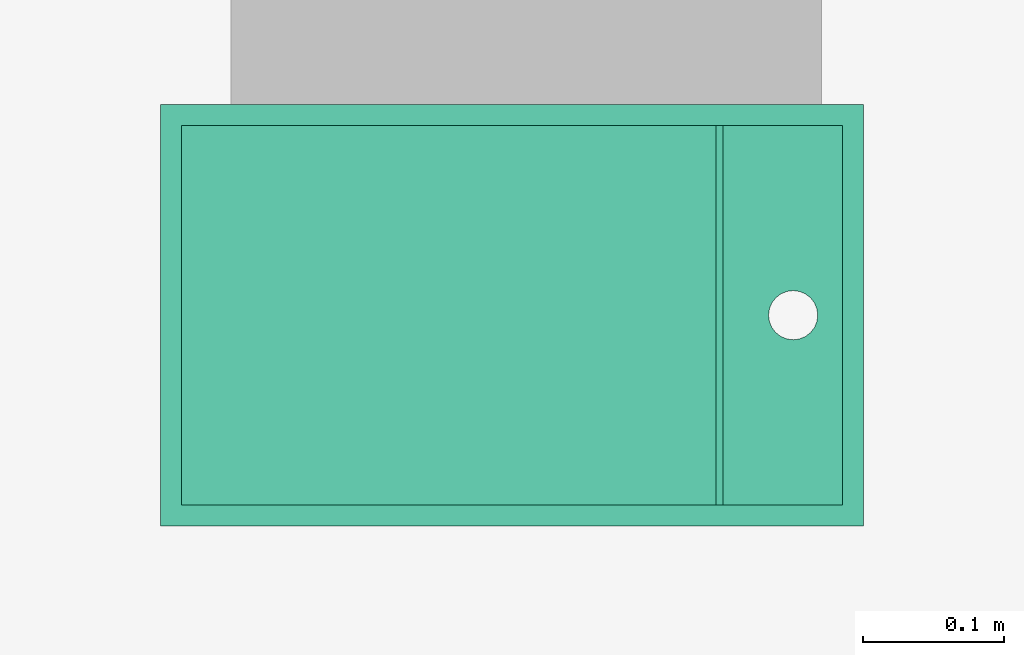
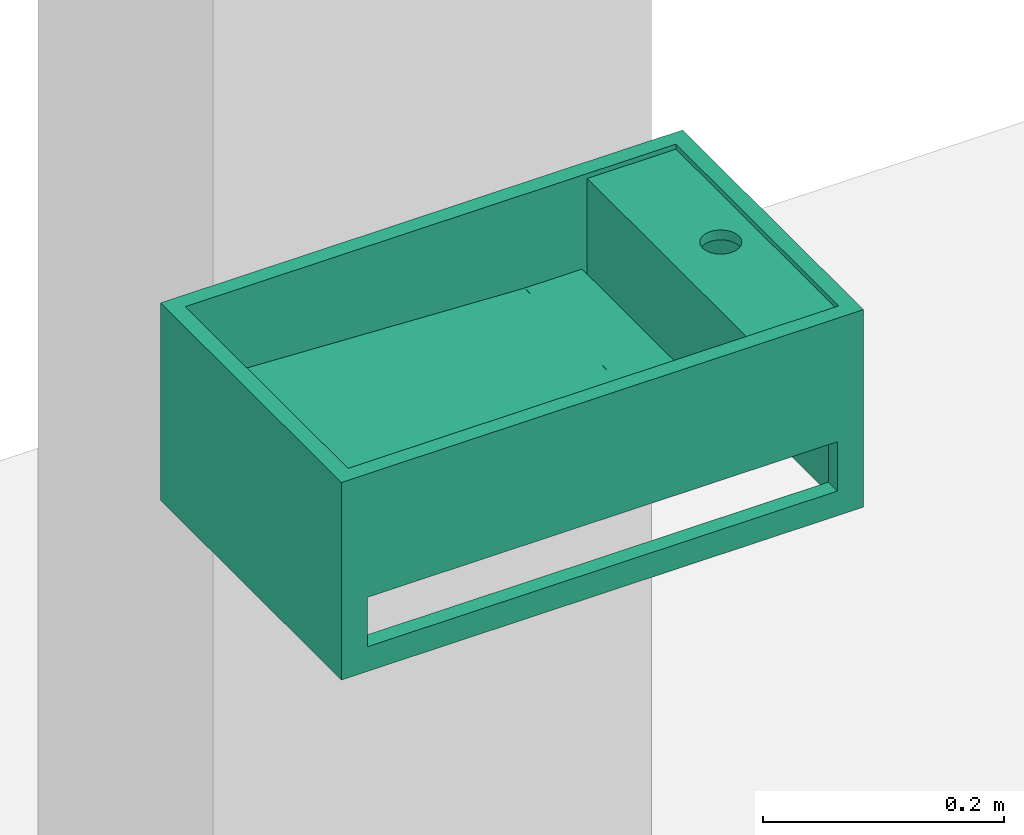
# One storey, part 2 of 2: 1 flow terminal.
"""IFC2X3 building model written with IfcOpenShell, lengths in millimetres."""

from ifc_helpers import new_model, entity, si_unit, converted_unit, derived_unit, direction, frame, origin, place, context, subcontext, project, spatial, faceted_brep, source, transform, mapped, material, element, save


model = new_model("IFC2X3")

# Units and contexts
model_context = context("Model", 3, precision=0.01, world=origin(), true_north=direction((6.12303176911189e-17, 1.0)))
context_of_model = context(None, 3, precision=0.01, world=origin(), true_north=direction((6.12303176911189e-17, 1.0)))
body_context = subcontext(model_context, "Body", "Model", "MODEL_VIEW")
ifc_project = project(units=[si_unit("LENGTHUNIT", "METRE", prefix="MILLI"), si_unit("AREAUNIT", "SQUARE_METRE"), si_unit("VOLUMEUNIT", "CUBIC_METRE"), converted_unit("PLANEANGLEUNIT", "DEGREE", entity("IfcRatioMeasure", 0.0174532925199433), si_unit("PLANEANGLEUNIT", "RADIAN"), dimensions=[0, 0, 0, 0, 0, 0, 0]), si_unit("MASSUNIT", "GRAM", prefix="KILO"), derived_unit("MASSDENSITYUNIT", [(si_unit("MASSUNIT", "GRAM", prefix="KILO"), 1), (si_unit("LENGTHUNIT", "METRE"), -3)]), si_unit("TIMEUNIT", "SECOND"), si_unit("FREQUENCYUNIT", "HERTZ"), si_unit("THERMODYNAMICTEMPERATUREUNIT", "DEGREE_CELSIUS"), derived_unit("THERMALTRANSMITTANCEUNIT", [(si_unit("MASSUNIT", "GRAM", prefix="KILO"), 1), (si_unit("THERMODYNAMICTEMPERATUREUNIT", "KELVIN"), -1), (si_unit("TIMEUNIT", "SECOND"), -3)]), derived_unit("VOLUMETRICFLOWRATEUNIT", [(si_unit("LENGTHUNIT", "METRE"), 3), (si_unit("TIMEUNIT", "SECOND"), -1)]), si_unit("ELECTRICCURRENTUNIT", "AMPERE"), si_unit("ELECTRICVOLTAGEUNIT", "VOLT"), si_unit("POWERUNIT", "WATT"), si_unit("FORCEUNIT", "NEWTON", prefix="KILO"), si_unit("ILLUMINANCEUNIT", "LUX"), si_unit("LUMINOUSFLUXUNIT", "LUMEN"), si_unit("LUMINOUSINTENSITYUNIT", "CANDELA"), derived_unit("USERDEFINED", [(si_unit("MASSUNIT", "GRAM", prefix="KILO"), -1), (si_unit("LENGTHUNIT", "METRE"), -2), (si_unit("TIMEUNIT", "SECOND"), 3), (si_unit("LUMINOUSFLUXUNIT", "LUMEN"), 1)]), derived_unit("LINEARVELOCITYUNIT", [(si_unit("LENGTHUNIT", "METRE"), 1), (si_unit("TIMEUNIT", "SECOND"), -1)]), si_unit("PRESSUREUNIT", "PASCAL"), derived_unit("USERDEFINED", [(si_unit("LENGTHUNIT", "METRE"), -2), (si_unit("MASSUNIT", "GRAM", prefix="KILO"), 1), (si_unit("TIMEUNIT", "SECOND"), -2)])], contexts=[model_context, context_of_model])

# Site, building, storey
site_placement = place(None, origin())
site = spatial("IfcSite", under=ifc_project, at=site_placement, Name="Default", CompositionType="ELEMENT")
building_placement = place(site_placement, origin())
building = spatial("IfcBuilding", under=site, at=building_placement, Name="n/a", CompositionType="ELEMENT")
storey_placement = place(building_placement, origin())
storey = spatial("IfcBuildingStorey", under=building, at=storey_placement, Name="Level 0", CompositionType="ELEMENT", Elevation=0.0)

# Flow terminal
ifc_material = material(Name="DBLTD_Neilur_SolidSurface_White")
shared_shape = source(origin(), body_context, "Body", "Brep", [
    faceted_brep([(104.999799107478, 285.0, 105.039388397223), (104.999799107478, 15.0, 105.039388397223), (159.999809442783, 15.0, 105.039388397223), (159.999809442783, 285.0, 105.039388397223), (104.999799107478, 285.0, 96.4429140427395), (159.999809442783, 285.0, 96.4429140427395), (159.999809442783, 15.0, 96.4429140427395), (104.999799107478, 15.0, 96.4429140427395)], [[[0, 1, 2, 3]], [[4, 5, 6, 7]], [[1, 0, 4, 7]], [[2, 1, 7, 6]], [[3, 2, 6, 5]], [[0, 3, 5, 4]]]),
    faceted_brep([(159.999809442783, 285.0, 105.015825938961), (485.0, 285.0, 120.015900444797), (485.0, 285.0, 200.015578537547), (14.9995852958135, 285.0, 200.015578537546), (14.9995852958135, 285.0, 195.016002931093), (99.9997991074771, 285.0, 195.016002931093), (99.9997991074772, 285.0, 95.0158349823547), (159.999809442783, 285.0, 95.0158349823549), (24.9999457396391, 285.0, 75.0153363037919), (84.9997803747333, 285.0, 75.0153363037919), (84.9997803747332, 285.0, 185.016916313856), (14.9995852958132, 285.0, 185.016916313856), (14.9995852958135, 285.0, 0.0155785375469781), (485.0, 285.0, 0.0155785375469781), (485.0, 285.0, 105.0), (175.34586717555, 285.0, 90.708208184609), (175.34586717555, 285.0, 75.0153363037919), (474.999945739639, 285.0, 75.0153363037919), (474.999945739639, 285.0, 25.0153169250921), (24.9999457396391, 285.0, 25.0153169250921), (43.0717967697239, 14.9973722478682, 154.015578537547), (42.2725933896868, 14.9973722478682, 152.086130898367), (14.9995852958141, 14.9973722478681, 185.016916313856), (44.343145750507, 14.9973722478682, 155.672432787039), (42.0, 14.9973722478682, 150.015578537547), (42.2725933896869, 14.9973722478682, 147.945026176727), (43.0717967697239, 14.9973722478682, 146.015578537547), (14.9995852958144, 14.9973722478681, 0.0), (44.343145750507, 14.9973722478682, 144.358724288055), (46.0, 14.9973722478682, 143.087375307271), (84.9997803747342, 14.9973722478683, 75.0147549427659), (47.9294476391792, 14.9973722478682, 142.288171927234), (50.0, 14.9973722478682, 142.015578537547), (52.0705523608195, 14.9973722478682, 142.288171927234), (54.0, 14.9973722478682, 143.087375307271), (55.6568542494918, 14.9973722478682, 144.358724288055), (56.9282032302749, 14.9973722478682, 146.015578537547), (57.7274066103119, 14.9973722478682, 147.945026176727), (84.999780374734, 14.9973722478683, 185.016916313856), (58.0, 14.9973722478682, 150.015578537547), (57.7274066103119, 14.9973722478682, 152.086130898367), (56.9282032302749, 14.9973722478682, 154.015578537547), (55.6568542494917, 14.9973722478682, 155.672432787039), (54.0, 14.9973722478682, 156.943781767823), (52.0705523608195, 14.9973722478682, 157.74298514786), (50.0, 14.9973722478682, 158.015578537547), (47.9294476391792, 14.9973722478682, 157.74298514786), (46.0, 14.9973722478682, 156.943781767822), (175.345867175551, 14.9973722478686, 75.0147549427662), (485.0, 14.9973722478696, 0.0155785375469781), (444.34314575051, 14.9973722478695, 44.3587242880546), (443.071796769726, 14.9973722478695, 46.0155785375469), (442.272593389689, 14.9973722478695, 47.9450261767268), (442.0, 14.9973722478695, 50.015578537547), (442.272593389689, 14.9973722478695, 52.0861308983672), (175.345867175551, 14.9973722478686, 90.708208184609), (443.071796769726, 14.9973722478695, 54.015578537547), (444.34314575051, 14.9973722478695, 55.6724327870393), (485.0, 14.9973722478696, 105.0), (446.0, 14.9973722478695, 56.9437817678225), (447.929447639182, 14.9973722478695, 57.7429851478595), (450.0, 14.9973722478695, 58.0155785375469), (452.070552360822, 14.9973722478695, 57.7429851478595), (454.0, 14.9973722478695, 56.9437817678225), (458.0, 14.9973722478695, 50.015578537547), (457.727406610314, 14.9973722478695, 52.0861308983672), (455.656854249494, 14.9973722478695, 55.6724327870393), (456.928203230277, 14.9973722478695, 54.015578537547), (446.0, 14.9973722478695, 43.0873753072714), (447.929447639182, 14.9973722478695, 42.2881719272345), (450.0, 14.9973722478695, 42.015578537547), (452.070552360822, 14.9973722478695, 42.2881719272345), (454.0, 14.9973722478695, 43.0873753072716), (455.656854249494, 14.9973722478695, 44.3587242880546), (456.928203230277, 14.9973722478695, 46.0155785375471), (457.727406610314, 14.9973722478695, 47.9450261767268), (99.999799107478, 14.9973722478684, 195.016002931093), (14.9995852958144, 14.9973722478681, 195.016002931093), (14.9995852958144, 14.9973722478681, 200.015578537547), (485.0, 14.9973722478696, 200.015578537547), (485.0, 14.9973722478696, 120.015900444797), (159.999809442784, 14.9973722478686, 105.015825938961), (159.999809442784, 14.9973722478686, 95.0158349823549), (99.9997991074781, 14.9973722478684, 95.0158349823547), (500.0, 300.0, 200.015578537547), (500.0, 0.0, 200.015578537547), (0.0, 300.0, 200.015578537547), (0.0, 0.0, 200.015578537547), (0.0, 300.0, 0.0155785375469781), (0.0, 0.0, 0.0155785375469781), (500.0, 300.0, 0.0155785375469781), (500.0, 0.0, 0.0155785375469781), (474.999945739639, 300.0, 75.0153363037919), (474.999945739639, 300.0, 25.0153169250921), (24.9999457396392, 300.0, 75.0153363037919), (24.9999457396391, 300.0, 25.0153169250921), (43.0717967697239, 0.0, 154.015578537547), (44.343145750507, 0.0, 155.672432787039), (42.2725933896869, 0.0, 152.086130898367), (46.0, 0.0, 156.943781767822), (47.9294476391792, 0.0, 157.74298514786), (50.0, 0.0, 158.015578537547), (52.0705523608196, 0.0, 157.74298514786), (42.0, 0.0, 150.015578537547), (42.2725933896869, 0.0, 147.945026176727), (43.0717967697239, 0.0, 146.015578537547), (54.0, 0.0, 156.943781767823), (44.3431457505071, 0.0, 144.358724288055), (46.0, 0.0, 143.087375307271), (47.9294476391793, 0.0, 142.288171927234), (50.0, 0.0, 142.015578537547), (52.0705523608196, 0.0, 142.288171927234), (54.0, 0.0, 143.087375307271), (55.6568542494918, 0.0, 144.358724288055), (442.272593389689, 0.0, 47.9450261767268), (443.071796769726, 0.0, 46.0155785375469), (444.34314575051, 0.0, 44.3587242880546), (446.0, 0.0, 43.0873753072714), (447.929447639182, 0.0, 42.2881719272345), (456.928203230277, 0.0, 54.0155785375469), (457.727406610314, 0.0, 52.0861308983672), (458.0, 0.0, 50.015578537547), (457.727406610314, 0.0, 47.9450261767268), (456.928203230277, 0.0, 46.0155785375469), (455.656854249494, 0.0, 44.3587242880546), (454.0, 0.0, 43.0873753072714), (452.070552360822, 0.0, 42.2881719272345), (450.0, 0.0, 42.015578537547), (56.9282032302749, 0.0, 146.015578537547), (442.0, 0.0, 50.015578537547), (57.727406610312, 0.0, 147.945026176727), (442.272593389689, 0.0, 52.0861308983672), (58.0, 0.0, 150.015578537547), (443.071796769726, 0.0, 54.015578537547), (57.727406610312, 0.0, 152.086130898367), (444.34314575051, 0.0, 55.6724327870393), (446.0, 0.0, 56.9437817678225), (447.929447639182, 0.0, 57.7429851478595), (450.0, 0.0, 58.0155785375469), (452.070552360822, 0.0, 57.7429851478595), (454.0, 0.0, 56.9437817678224), (455.656854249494, 0.0, 55.6724327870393), (56.9282032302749, 0.0, 154.015578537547), (55.6568542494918, 0.0, 155.672432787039), (34.8445554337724, 141.250000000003, 195.016002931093), (34.8445554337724, 141.250000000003, 185.016916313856), (33.0962980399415, 145.470666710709, 185.016916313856), (33.0962980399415, 145.470666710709, 195.016002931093), (32.5000000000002, 150.0, 185.016916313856), (32.5000000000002, 150.0, 195.016002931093), (45.4706667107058, 133.096298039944, 195.016002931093), (45.4706667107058, 133.096298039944, 185.016916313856), (41.25, 134.844555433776, 185.016916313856), (41.25, 134.844555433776, 195.016002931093), (37.6256313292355, 137.625631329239, 185.016916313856), (37.6256313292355, 137.625631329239, 195.016002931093), (50.0, 132.500000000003, 195.016002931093), (50.0, 132.500000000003, 185.016916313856), (62.3743686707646, 137.625631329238, 195.016002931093), (62.3743686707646, 137.625631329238, 185.016916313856), (58.7499999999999, 134.844555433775, 185.016916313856), (58.7499999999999, 134.844555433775, 195.016002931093), (54.529333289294, 133.096298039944, 185.016916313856), (54.529333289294, 133.096298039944, 195.016002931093), (67.5000000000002, 150.0, 195.016002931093), (67.5000000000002, 150.0, 185.016916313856), (66.9037019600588, 145.470666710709, 185.016916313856), (66.9037019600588, 145.470666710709, 195.016002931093), (65.1554445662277, 141.250000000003, 185.016916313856), (65.1554445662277, 141.250000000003, 195.016002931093), (65.1554445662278, 158.750000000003, 195.016002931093), (65.1554445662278, 158.750000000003, 185.016916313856), (66.9037019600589, 154.529333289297, 185.016916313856), (66.9037019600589, 154.529333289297, 195.016002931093), (54.5293332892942, 166.903701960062, 195.016002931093), (54.5293332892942, 166.903701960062, 185.016916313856), (58.7500000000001, 165.155444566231, 185.016916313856), (58.7500000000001, 165.155444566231, 195.016002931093), (62.3743686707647, 162.374368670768, 185.016916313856), (62.3743686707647, 162.374368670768, 195.016002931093), (50.0, 167.500000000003, 195.016002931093), (50.0, 167.500000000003, 185.016916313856), (37.6256313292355, 162.374368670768, 195.016002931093), (37.6256313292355, 162.374368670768, 185.016916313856), (41.2500000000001, 165.155444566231, 185.016916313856), (41.2500000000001, 165.155444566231, 195.016002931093), (45.470666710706, 166.903701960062, 185.016916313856), (45.4706667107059, 166.903701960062, 195.016002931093), (33.0962980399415, 154.529333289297, 185.016916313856), (33.0962980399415, 154.529333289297, 195.016002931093), (34.8445554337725, 158.750000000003, 185.016916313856), (34.8445554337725, 158.750000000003, 195.016002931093)], [[[0, 1, 2, 3, 4, 5, 6, 7]], [[8, 9, 10, 11, 12, 13, 14, 15, 16, 17, 18, 19]], [[20, 21, 22]], [[23, 20, 22]], [[24, 22, 21]], [[22, 24, 25]], [[22, 25, 26]], [[26, 27, 22]], [[28, 27, 26]], [[27, 28, 29]], [[27, 29, 30]], [[31, 30, 29]], [[30, 31, 32]], [[32, 33, 30]], [[33, 34, 30]], [[34, 35, 30]], [[35, 36, 30]], [[36, 37, 30]], [[37, 38, 30]], [[37, 39, 38]], [[38, 39, 40]], [[40, 41, 38]], [[42, 38, 41]], [[38, 42, 43]], [[38, 43, 44]], [[45, 38, 44]], [[22, 45, 46]], [[38, 45, 22]], [[22, 47, 23]], [[47, 22, 46]], [[30, 48, 27]], [[27, 48, 49]], [[50, 49, 48]], [[50, 48, 51]], [[52, 51, 48]], [[53, 52, 48]], [[53, 48, 54]], [[54, 48, 55]], [[55, 56, 54]], [[56, 55, 57]], [[57, 55, 58]], [[59, 57, 58]], [[59, 58, 60]], [[58, 61, 60]], [[58, 62, 61]], [[58, 63, 62]], [[58, 49, 64]], [[65, 58, 64]], [[58, 66, 63]], [[58, 67, 66]], [[67, 58, 65]], [[68, 49, 50]], [[68, 69, 49]], [[49, 69, 70]], [[49, 70, 71]], [[49, 71, 72]], [[72, 73, 49]], [[74, 49, 73]], [[49, 74, 75]], [[64, 49, 75]], [[76, 77, 78, 79, 80, 81, 82, 83]], [[84, 2, 85]], [[2, 84, 86]], [[86, 3, 2]], [[3, 86, 87]], [[85, 79, 87]], [[78, 87, 79]], [[87, 78, 3]], [[79, 85, 2]], [[88, 12, 89]], [[12, 88, 13]], [[90, 13, 88]], [[13, 90, 91]], [[49, 91, 89]], [[91, 49, 13]], [[89, 27, 49]], [[27, 89, 12]], [[84, 92, 86]], [[92, 84, 90]], [[90, 93, 92]], [[93, 90, 88]], [[86, 94, 88]], [[95, 88, 94]], [[88, 95, 93]], [[94, 86, 92]], [[87, 86, 88, 89]], [[87, 96, 97]], [[96, 87, 98]], [[87, 97, 99]], [[99, 100, 87]], [[100, 101, 87]], [[87, 101, 102]], [[103, 98, 87]], [[104, 103, 87]], [[104, 87, 105]], [[105, 87, 89]], [[106, 87, 102]], [[106, 85, 87]], [[89, 107, 105]], [[107, 89, 108]], [[109, 108, 89]], [[109, 89, 110]], [[89, 111, 110]], [[89, 112, 111]], [[89, 113, 112]], [[113, 89, 114]], [[114, 89, 115]], [[116, 115, 89]], [[116, 89, 117]], [[117, 89, 91]], [[91, 118, 117]], [[119, 91, 85]], [[119, 120, 91]], [[120, 121, 91]], [[122, 91, 121]], [[122, 123, 91]], [[124, 91, 123]], [[91, 124, 125]], [[125, 126, 91]], [[126, 127, 91]], [[127, 118, 91]], [[128, 113, 114]], [[128, 114, 129]], [[129, 130, 128]], [[129, 131, 130]], [[131, 132, 130]], [[133, 132, 131]], [[133, 134, 132]], [[135, 134, 133]], [[135, 85, 134]], [[136, 85, 135]], [[137, 85, 136]], [[138, 85, 137]], [[138, 139, 85]], [[139, 140, 85]], [[140, 141, 85]], [[119, 85, 141]], [[85, 142, 134]], [[106, 143, 85]], [[142, 85, 143]], [[84, 85, 91, 90]], [[144, 145, 146, 147]], [[147, 146, 148, 149]], [[150, 151, 152, 153]], [[153, 152, 154, 155]], [[155, 154, 145, 144]], [[151, 150, 156, 157]], [[158, 159, 160, 161]], [[161, 160, 162, 163]], [[164, 165, 166, 167]], [[167, 166, 168, 169]], [[169, 168, 159, 158]], [[157, 156, 163, 162]], [[170, 171, 172, 173]], [[173, 172, 165, 164]], [[174, 175, 176, 177]], [[177, 176, 178, 179]], [[179, 178, 171, 170]], [[175, 174, 180, 181]], [[182, 183, 184, 185]], [[185, 184, 186, 187]], [[149, 148, 188, 189]], [[189, 188, 190, 191]], [[191, 190, 183, 182]], [[181, 180, 187, 186]], [[65, 64, 121, 120]], [[65, 120, 119, 67]], [[63, 66, 141, 140]], [[66, 67, 119, 141]], [[63, 140, 139, 62]], [[62, 139, 138, 61]], [[61, 138, 137, 60]], [[60, 137, 136, 59]], [[56, 57, 135, 133]], [[135, 57, 59, 136]], [[54, 56, 133, 131]], [[54, 131, 129, 53]], [[53, 129, 114, 52]], [[52, 114, 115, 51]], [[68, 50, 116, 117]], [[116, 50, 51, 115]], [[69, 68, 117, 118]], [[69, 118, 127, 70]], [[70, 127, 126, 71]], [[71, 126, 125, 72]], [[74, 73, 124, 123]], [[124, 73, 72, 125]], [[75, 74, 123, 122]], [[75, 122, 121, 64]], [[24, 103, 104, 25]], [[25, 104, 105, 26]], [[29, 28, 107, 108]], [[105, 107, 28, 26]], [[31, 29, 108, 109]], [[110, 32, 31, 109]], [[33, 111, 112, 34]], [[34, 112, 113, 35]], [[37, 36, 128, 130]], [[113, 128, 36, 35]], [[39, 37, 130, 132]], [[33, 32, 110, 111]], [[39, 132, 134, 40]], [[40, 134, 142, 41]], [[43, 42, 143, 106]], [[142, 143, 42, 41]], [[44, 43, 106, 102]], [[101, 45, 44, 102]], [[46, 100, 99, 47]], [[47, 99, 97, 23]], [[21, 20, 96, 98]], [[97, 96, 20, 23]], [[24, 21, 98, 103]], [[46, 45, 101, 100]], [[95, 19, 18, 93]], [[93, 18, 17, 92]], [[9, 16, 48, 30]], [[9, 8, 94, 92, 17, 16]], [[94, 8, 19, 95]], [[162, 160, 38]], [[157, 162, 38]], [[159, 38, 160]], [[38, 159, 168]], [[38, 168, 166]], [[38, 166, 165]], [[165, 10, 38]], [[10, 165, 172]], [[10, 172, 171]], [[10, 171, 178]], [[178, 176, 10]], [[175, 10, 176]], [[10, 175, 181]], [[181, 11, 10]], [[11, 181, 186]], [[11, 186, 184]], [[184, 183, 11]], [[190, 11, 183]], [[11, 190, 188]], [[11, 188, 148]], [[22, 11, 148]], [[148, 146, 22]], [[22, 146, 145]], [[22, 145, 154]], [[22, 154, 152]], [[152, 151, 22]], [[151, 157, 22]], [[38, 22, 157]], [[9, 30, 38, 10]], [[15, 55, 48, 16]], [[15, 14, 58, 55]], [[13, 49, 58, 14]], [[1, 80, 79, 2]], [[11, 22, 27, 12]], [[4, 3, 78, 77]], [[1, 0, 81, 80]], [[0, 7, 82, 81]], [[6, 83, 82, 7]], [[6, 5, 76, 83]], [[156, 150, 77]], [[76, 156, 77]], [[156, 76, 163]], [[153, 77, 150]], [[77, 153, 155]], [[77, 155, 144]], [[77, 144, 147]], [[147, 149, 77]], [[4, 77, 149]], [[4, 149, 189]], [[4, 189, 191]], [[191, 182, 4]], [[185, 4, 182]], [[4, 185, 187]], [[187, 180, 4]], [[5, 4, 180]], [[5, 180, 174]], [[174, 177, 5]], [[179, 5, 177]], [[5, 179, 170]], [[5, 170, 173]], [[164, 5, 173]], [[76, 164, 167]], [[5, 164, 76]], [[161, 163, 76]], [[158, 161, 76]], [[76, 169, 158]], [[76, 167, 169]]]),
])
flow_terminal_placement = place(storey_placement, frame((2717.55113487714, 652.680190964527, 600.0), z_axis=(0.0, 0.0, 1.0), x_axis=(-1.0, 0.0, 0.0)))
element("IfcFlowTerminal", 1, at=flow_terminal_placement, inside=storey, material=ifc_material, Name="17", ObjectType="DBLTD_Neilur_WallHungWashbasins_700320:Wall Mounted Basin", context=body_context, shape_type="MappedRepresentation", body=[
    mapped(shared_shape, transform((0.0, 0.0, 0.0), scale=1.0)),
])

save(model, "model.ifc")
